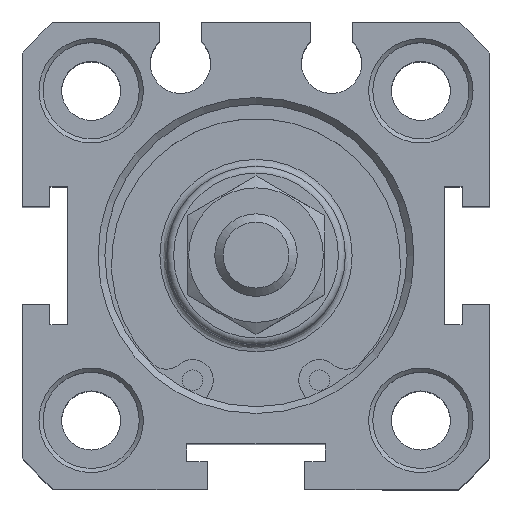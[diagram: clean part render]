
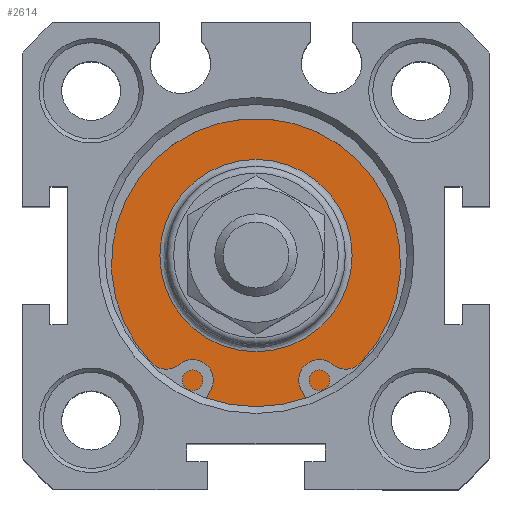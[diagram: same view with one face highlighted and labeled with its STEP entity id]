
A CAD part, top view. The second image highlights one B-rep face of the part: STEP entity #2614.
In plain terms, the highlighted planar face has unit normal (0, 0, 1).
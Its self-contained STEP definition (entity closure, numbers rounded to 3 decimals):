
#2552=CARTESIAN_POINT('',(0.957,6.522,36.8));
#2553=VERTEX_POINT('',#2552);
#2554=CARTESIAN_POINT('',(0.957,-0.478,36.8));
#2555=DIRECTION('',(0.0,0.0,1.0));
#2556=DIRECTION('',(0.0,-1.0,0.0));
#2557=AXIS2_PLACEMENT_3D('',#2554,#2555,#2556);
#2558=CIRCLE('',#2557,7.);
#2559=EDGE_CURVE('',#2553,#2553,#2558,.T.);
#2595=CARTESIAN_POINT('',(0.957,8.272,36.8));
#2596=DIRECTION('',(0.0,0.0,1.0));
#2597=DIRECTION('',(1.0,0.0,0.0));
#2598=AXIS2_PLACEMENT_3D('',#2595,#2596,#2597);
#2599=PLANE('',#2598);
#2600=CARTESIAN_POINT('',(0.957,10.522,36.8));
#2601=VERTEX_POINT('',#2600);
#2602=CARTESIAN_POINT('',(0.957,-0.478,36.8));
#2603=DIRECTION('',(0.0,0.0,1.0));
#2604=DIRECTION('',(0.0,1.0,0.0));
#2605=AXIS2_PLACEMENT_3D('',#2602,#2603,#2604);
#2606=CIRCLE('',#2605,11.);
#2607=EDGE_CURVE('',#2601,#2601,#2606,.T.);
#2608=ORIENTED_EDGE('',*,*,#2607,.T.);
#2609=EDGE_LOOP('',(#2608));
#2610=FACE_OUTER_BOUND('',#2609,.T.);
#2611=ORIENTED_EDGE('',*,*,#2559,.F.);
#2612=EDGE_LOOP('',(#2611));
#2613=FACE_BOUND('',#2612,.T.);
#2614=ADVANCED_FACE('',(#2610,#2613),#2599,.T.);
